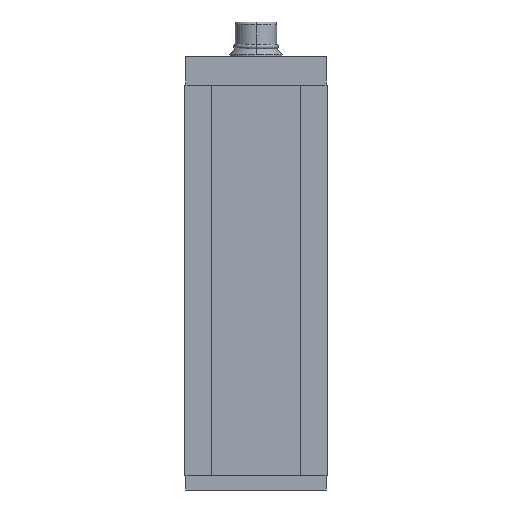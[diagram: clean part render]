
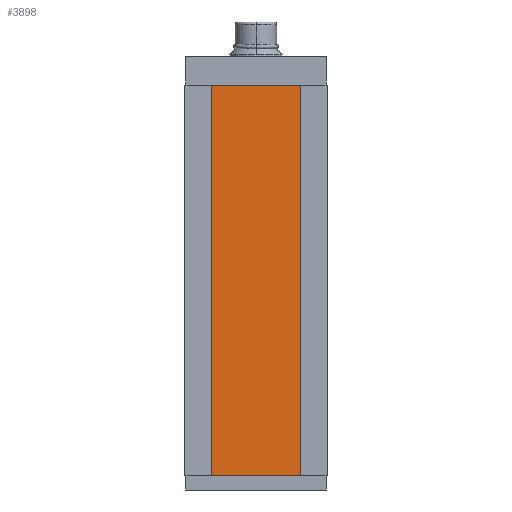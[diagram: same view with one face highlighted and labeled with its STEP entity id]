
A CAD part, front view. The second image highlights one B-rep face of the part: STEP entity #3898.
In plain terms, the highlighted planar face has unit normal (0, -1, 0).
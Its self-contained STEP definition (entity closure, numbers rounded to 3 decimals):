
#147 = ORIENTED_EDGE ( 'NONE', *, *, #1360, .F. ) ;
#172 = ORIENTED_EDGE ( 'NONE', *, *, #796, .F. ) ;
#225 = VERTEX_POINT ( 'NONE', #2231 ) ;
#796 = EDGE_CURVE ( 'NONE', #225, #1116, #2574, .T. ) ;
#1102 = ORIENTED_EDGE ( 'NONE', *, *, #5317, .T. ) ;
#1116 = VERTEX_POINT ( 'NONE', #1899 ) ;
#1313 = ORIENTED_EDGE ( 'NONE', *, *, #2169, .T. ) ;
#1360 = EDGE_CURVE ( 'NONE', #1951, #225, #3314, .T. ) ;
#1899 = CARTESIAN_POINT ( 'NONE',  ( 26.155, 0., -110. ) ) ;
#1951 = VERTEX_POINT ( 'NONE', #4349 ) ;
#2169 = EDGE_CURVE ( 'NONE', #1951, #3031, #4422, .T. ) ;
#2231 = CARTESIAN_POINT ( 'NONE',  ( 26.155, 0., 110. ) ) ;
#2574 = LINE ( 'NONE', #2575, #2576 ) ;
#2575 = CARTESIAN_POINT ( 'NONE',  ( 26.155, 0., 110. ) ) ;
#2576 = VECTOR ( 'NONE', #2577, 1000. ) ;
#2577 = DIRECTION ( 'NONE',  ( 0., 0., -1. ) ) ;
#2586 = FACE_OUTER_BOUND ( 'NONE', #3470, .T. ) ;
#2587 = PLANE ( 'NONE',  #2588 ) ;
#2588 = AXIS2_PLACEMENT_3D ( 'NONE', #2589, #2590, #2591 ) ;
#2589 = CARTESIAN_POINT ( 'NONE',  ( -26.155, 0., 110. ) ) ;
#2590 = DIRECTION ( 'NONE',  ( 0., 1., 0. ) ) ;
#2591 = DIRECTION ( 'NONE',  ( 0., 0., 1. ) ) ;
#3031 = VERTEX_POINT ( 'NONE', #4755 ) ;
#3314 = LINE ( 'NONE', #3315, #3316 ) ;
#3315 = CARTESIAN_POINT ( 'NONE',  ( -26.155, 0., 110. ) ) ;
#3316 = VECTOR ( 'NONE', #3317, 1000. ) ;
#3317 = DIRECTION ( 'NONE',  ( 1., 0., 0. ) ) ;
#3470 = EDGE_LOOP ( 'NONE', ( #1102, #172, #147, #1313 ) ) ;
#3771 = LINE ( 'NONE', #3772, #3775 ) ;
#3772 = CARTESIAN_POINT ( 'NONE',  ( -26.155, 0., -110. ) ) ;
#3775 = VECTOR ( 'NONE', #3776, 1000. ) ;
#3776 = DIRECTION ( 'NONE',  ( 1., 0., 0. ) ) ;
#3898 = ADVANCED_FACE ( 'NONE', ( #2586 ), #2587, .F. ) ;
#4349 = CARTESIAN_POINT ( 'NONE',  ( -26.155, 0., 110. ) ) ;
#4422 = LINE ( 'NONE', #4423, #4424 ) ;
#4423 = CARTESIAN_POINT ( 'NONE',  ( -26.155, 0., 110. ) ) ;
#4424 = VECTOR ( 'NONE', #4425, 1000. ) ;
#4425 = DIRECTION ( 'NONE',  ( 0., 0., -1. ) ) ;
#4755 = CARTESIAN_POINT ( 'NONE',  ( -26.155, 0., -110. ) ) ;
#5317 = EDGE_CURVE ( 'NONE', #3031, #1116, #3771, .T. ) ;
